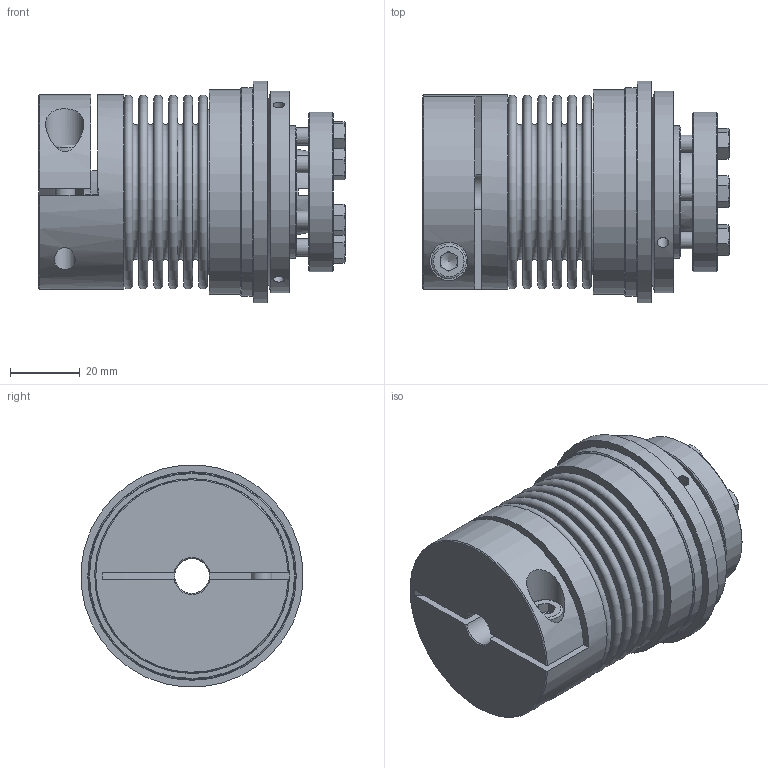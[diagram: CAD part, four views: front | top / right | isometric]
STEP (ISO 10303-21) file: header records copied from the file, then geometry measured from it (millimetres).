
FILE_DESCRIPTION( ( 'Unknown' ), '1' );
FILE_NAME( 'C:/Users/skarpstein/Desktop/Korrigierte 3D Modelle/KBK-B-KA/KBK-BKA-30-86-5.stp', 'Unknown', ( 'Unknown' ), ( 'Unknown' ), 'PSStep 16.0.42', 'Unknown', ' ' );
FILE_SCHEMA( ( 'AUTOMOTIVE_DESIGN { 1 0 10303 214 1 1 1 1 }' ) );
Length unit declared in the file: millimetre
Products named in the file (10): Assem1; Stellring 30_0; Druckring 30_0; Flansch BK30; KN30_Standard_2; Socket Head Cap Screw_DIN_DIN 912 M6 x 20 --- 20N_3; L-A-30 Grundkörper; Druckring L-A-30; din_en_24017_m5x16; BL30_Standard_0
Assembly tree (14 placements, depth 2):
  Assem1
    Stellring 30_0
    Druckring 30_0
    Flansch BK30
    KN30_Standard_2
    Socket Head Cap Screw_DIN_DIN 912 M6 x 20 --- 20N_3
    L-A-30 Grundkörper
    Druckring L-A-30
    din_en_24017_m5x16  x6
    BL30_Standard_0
Bounding box: 88.2 x 63.81 x 63.81 mm (x, y, z)
Volume: 135317 mm3; surface area: 86142.8 mm2
Topology: 14 solids, 14 shells, 315 faces, 655 edges, 420 vertices
Faces by surface type: plane 155, cone 68, cylinder 58, torus 34
Full cylindrical faces by diameter (mm): 3.242 x3, 4.134 x6, 5 x6, 5.5 x6, 6 x2, 6.4 x1, 6.88 x6, 10 x2, 11 x1, 12 x1, 23.9 x1, 24.7 x1, 25 x2, 34 x1, 37 x1, 38 x2, 40 x1, 46 x1, 46.5 x2, 47.3 x2, 52 x1, 56 x1, 58 x1, 59 x1, 60 x1, 64 x1
Entity records: 7221 total; most frequent: CARTESIAN_POINT 1302, DIRECTION 927, ORIENTED_EDGE 624, AXIS2_PLACEMENT_3D 424, EDGE_LOOP 366, EDGE_CURVE 312, FACE_OUTER_BOUND 276, VERTEX_POINT 267
